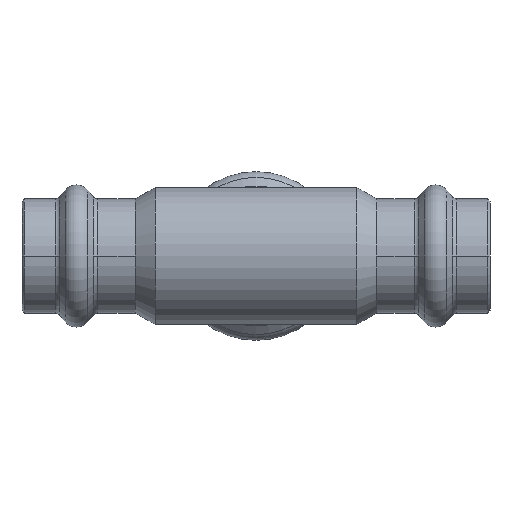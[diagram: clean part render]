
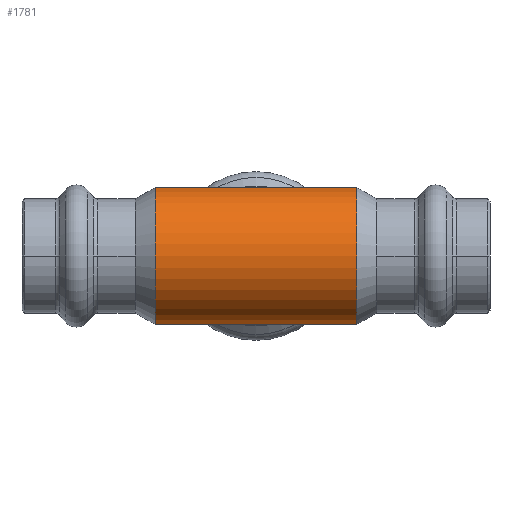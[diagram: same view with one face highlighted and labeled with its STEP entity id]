
A CAD part, front view. The second image highlights one B-rep face of the part: STEP entity #1781.
In plain terms, the highlighted cylindrical face has radius 12.6 mm (diameter 25.2 mm), a partial arc.
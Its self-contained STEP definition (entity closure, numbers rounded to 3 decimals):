
#566 = LINE ( 'NONE', #1296, #2826 ) ;
#572 = CIRCLE ( 'NONE', #4283, 12.6 ) ;
#588 = EDGE_CURVE ( 'NONE', #872, #998, #2892, .T. ) ;
#640 = EDGE_CURVE ( 'NONE', #4591, #872, #572, .T. ) ;
#730 = EDGE_CURVE ( 'NONE', #4591, #2120, #566, .T. ) ;
#872 = VERTEX_POINT ( 'NONE', #1466 ) ;
#998 = VERTEX_POINT ( 'NONE', #3158 ) ;
#1296 = CARTESIAN_POINT ( 'NONE',  ( -58.611, 0., 12.6 ) ) ;
#1382 = DIRECTION ( 'NONE',  ( -1., 0., 0. ) ) ;
#1466 = CARTESIAN_POINT ( 'NONE',  ( 18.521, 0., -12.6 ) ) ;
#1493 = ORIENTED_EDGE ( 'NONE', *, *, #3081, .F. ) ;
#1497 = ORIENTED_EDGE ( 'NONE', *, *, #730, .T. ) ;
#1611 = ORIENTED_EDGE ( 'NONE', *, *, #640, .F. ) ;
#1618 = ORIENTED_EDGE ( 'NONE', *, *, #588, .F. ) ;
#1652 = CIRCLE ( 'NONE', #1884, 12.6 ) ;
#1664 = DIRECTION ( 'NONE',  ( 0., 0., 1. ) ) ;
#1705 = DIRECTION ( 'NONE',  ( 1., 0., 0. ) ) ;
#1739 = CARTESIAN_POINT ( 'NONE',  ( 18.521, 0., 0. ) ) ;
#1781 = ADVANCED_FACE ( 'NONE', ( #4536 ), #4488, .T. ) ;
#1866 = CARTESIAN_POINT ( 'NONE',  ( -18.521, 0., 12.6 ) ) ;
#1884 = AXIS2_PLACEMENT_3D ( 'NONE', #3734, #3718, #3702 ) ;
#2120 = VERTEX_POINT ( 'NONE', #1866 ) ;
#2178 = DIRECTION ( 'NONE',  ( 0., 0., 1. ) ) ;
#2196 = CARTESIAN_POINT ( 'NONE',  ( -58.611, 0., -12.6 ) ) ;
#2270 = DIRECTION ( 'NONE',  ( -1., 0., 0. ) ) ;
#2288 = CARTESIAN_POINT ( 'NONE',  ( -58.611, 0., 0. ) ) ;
#2539 = CARTESIAN_POINT ( 'NONE',  ( 18.521, 0., 12.6 ) ) ;
#2826 = VECTOR ( 'NONE', #1382, 1000. ) ;
#2885 = VECTOR ( 'NONE', #2270, 1000. ) ;
#2892 = LINE ( 'NONE', #2196, #2885 ) ;
#3081 = EDGE_CURVE ( 'NONE', #998, #2120, #1652, .T. ) ;
#3097 = DIRECTION ( 'NONE',  ( -1., 0., 0. ) ) ;
#3158 = CARTESIAN_POINT ( 'NONE',  ( -18.521, 0., -12.6 ) ) ;
#3702 = DIRECTION ( 'NONE',  ( 0., 0., -1. ) ) ;
#3718 = DIRECTION ( 'NONE',  ( -1., 0., 0. ) ) ;
#3734 = CARTESIAN_POINT ( 'NONE',  ( -18.521, 0., 0. ) ) ;
#4049 = AXIS2_PLACEMENT_3D ( 'NONE', #2288, #3097, #2178 ) ;
#4283 = AXIS2_PLACEMENT_3D ( 'NONE', #1739, #1705, #1664 ) ;
#4488 = CYLINDRICAL_SURFACE ( 'NONE', #4049, 12.6 ) ;
#4536 = FACE_OUTER_BOUND ( 'NONE', #4660, .T. ) ;
#4591 = VERTEX_POINT ( 'NONE', #2539 ) ;
#4660 = EDGE_LOOP ( 'NONE', ( #1618, #1611, #1497, #1493 ) ) ;
